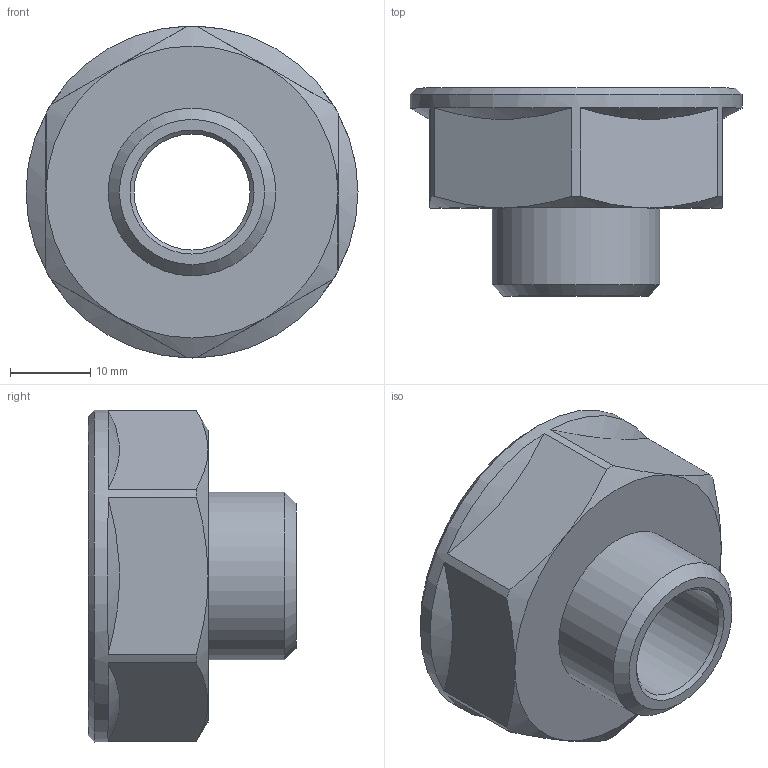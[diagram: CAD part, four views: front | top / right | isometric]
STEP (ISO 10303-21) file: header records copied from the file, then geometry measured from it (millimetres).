
FILE_DESCRIPTION(('STEP AP203'), '1');
FILE_NAME('ﾂﾐ.753138.008 - VTr.592.N.0604 ﾏ褞襄. G1xG1-2', '2024-07-08T09:36:18', ('Boss'), (''), 'C3D Converter', 'C3D Toolkit', '');
FILE_SCHEMA(('CONFIG_CONTROL_DESIGN'));
Length unit declared in the file: millimetre
Products named in the file (1): ВР.753138.008
Bounding box: 41.5 x 26 x 41.5 mm (x, y, z)
Volume: 9869.4 mm3; surface area: 6446.5 mm2
Topology: 1 solids, 1 shells, 31 faces, 70 edges, 43 vertices
Faces by surface type: cone 16, plane 10, cylinder 4, torus 1
Full cylindrical faces by diameter (mm): 14.5 x1, 20.955 x1, 30.292 x1, 41.5 x1
Entity records: 1380 total; most frequent: CARTESIAN_POINT 714, DIRECTION 134, ORIENTED_EDGE 118, AXIS2_PLACEMENT_3D 61, EDGE_CURVE 59, EDGE_LOOP 43, VERTEX_POINT 42, ADVANCED_FACE 30
